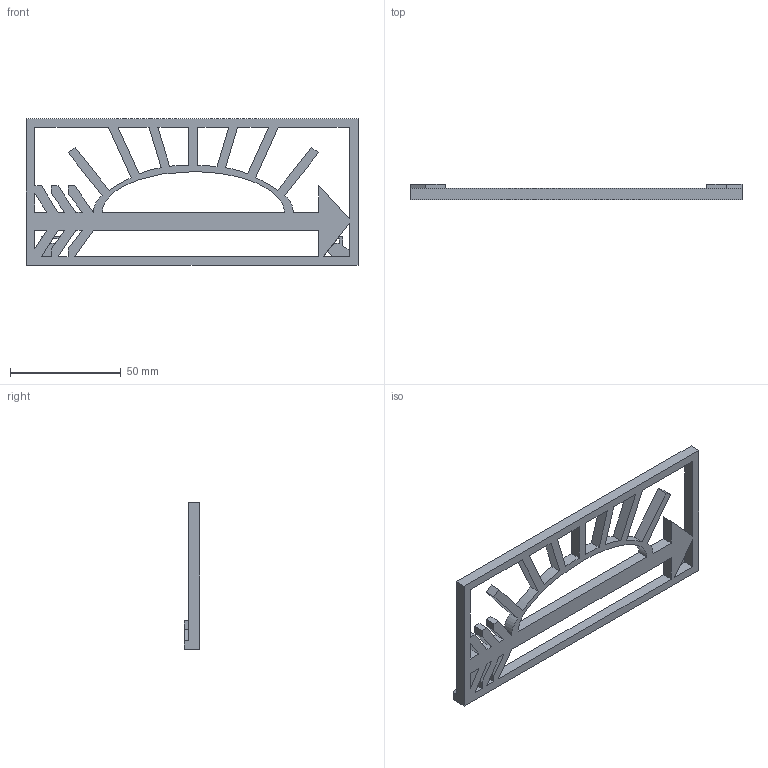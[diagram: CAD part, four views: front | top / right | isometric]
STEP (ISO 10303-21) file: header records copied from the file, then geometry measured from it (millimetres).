
FILE_DESCRIPTION(/* description */ ('STEP AP242','CAx-IF Rec.Pracs.---Representation and Presentation of Product Manufacturing Information (PMI)---4.0---2014-10-13','CAx-IF Rec.Pracs.---3D Tessellated Geometry---0.4---2014-09-14','2;1'),/* implementation_level */ '2;1');
FILE_NAME(/* name */ '65c2f4c7b7d65a7152e5d323',/* time_stamp */ '2024-02-07T03:11:03Z',/* author */ (''),/* organization */ (''),/* preprocessor_version */ 'ST-DEVELOPER v19.4',/* originating_system */ ' ',/* authorisation */ ' ');
FILE_SCHEMA (('AP242_MANAGED_MODEL_BASED_3D_ENGINEERING_MIM_LF { 1 0 10303 442 1 1 4 }'));
Length unit declared in the file: metre
Products named in the file (1): Arrow of Light Left
Bounding box: 150 x 7 x 66.38 mm (x, y, z)
Volume: 21068 mm3; surface area: 17603.6 mm2
Topology: 1 solids, 1 shells, 133 faces, 389 edges, 254 vertices
Faces by surface type: plane 123, cylinder 8, bspline 2
Entity records: 4425 total; most frequent: CARTESIAN_POINT 803, ORIENTED_EDGE 778, DIRECTION 673, EDGE_CURVE 389, LINE 369, VECTOR 369, VERTEX_POINT 254, EDGE_LOOP 163
